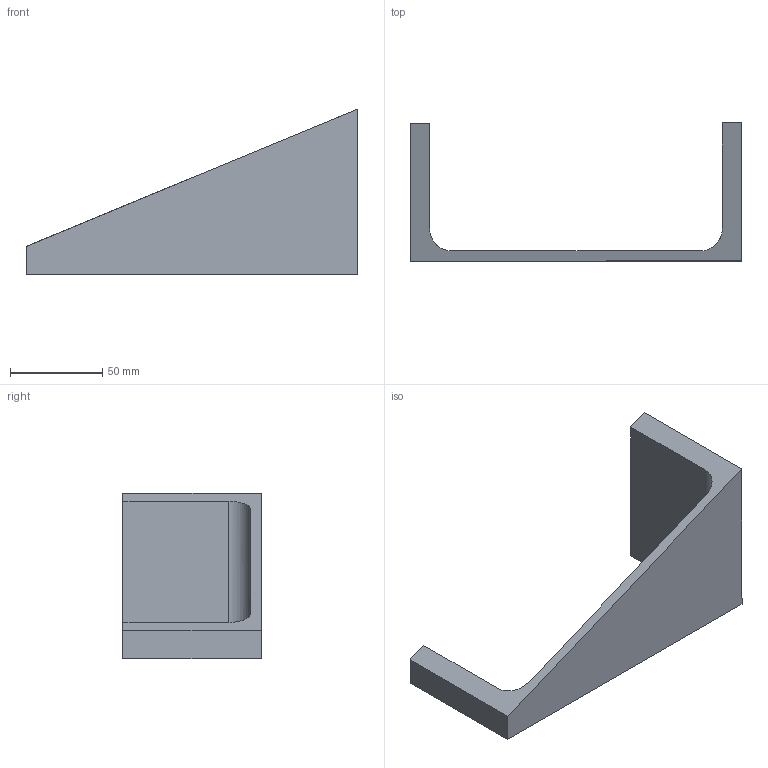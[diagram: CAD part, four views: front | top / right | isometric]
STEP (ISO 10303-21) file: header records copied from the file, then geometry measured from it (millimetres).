
FILE_DESCRIPTION (( 'STEP AP214' ), '1' );
FILE_NAME ('CCJ029-REP.051 - MONTANT ESCALIER SUPERIEUR DOUBLE 3.STEP', '2024-01-31T09:10:16', ( '' ), ( '' ), 'SwSTEP 2.0', 'SolidWorks 2021', '' );
FILE_SCHEMA (( 'AUTOMOTIVE_DESIGN' ));
Length unit declared in the file: millimetre
Products named in the file (1): CCJ029-REP.051 - MONTANT ESCALIER SUPERIEUR DOUBLE 3
Bounding box: 180 x 75 x 90 mm (x, y, z)
Volume: 132335.3 mm3; surface area: 38993.2 mm2
Topology: 1 solids, 1 shells, 45 faces, 117 edges, 78 vertices
Faces by surface type: plane 26, bspline 17, cylinder 2
Entity records: 2573 total; most frequent: CARTESIAN_POINT 1552, ORIENTED_EDGE 234, DIRECTION 141, EDGE_CURVE 117, VECTOR 79, LINE 79, VERTEX_POINT 78, EDGE_LOOP 49
